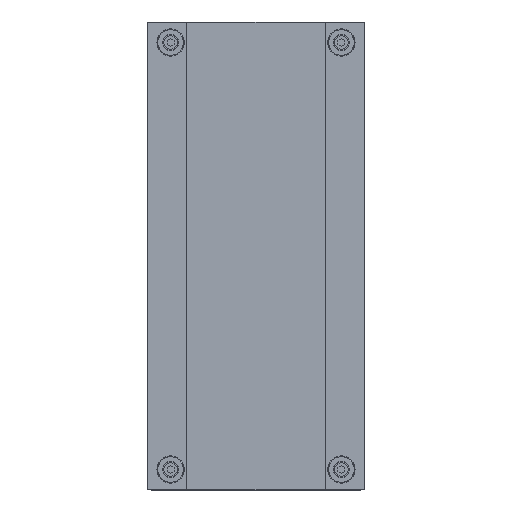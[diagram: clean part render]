
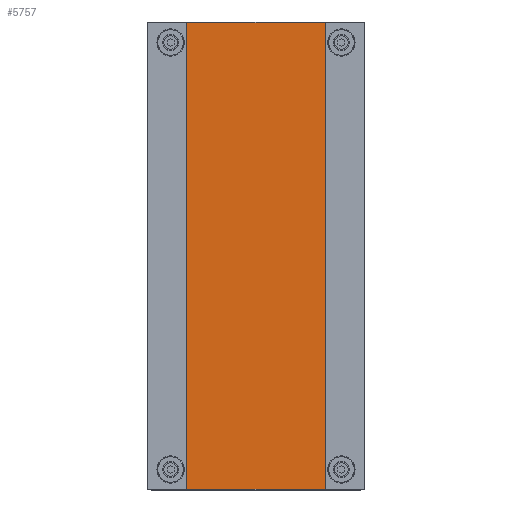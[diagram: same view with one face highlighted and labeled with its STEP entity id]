
A CAD part, front view. The second image highlights one B-rep face of the part: STEP entity #5757.
In plain terms, the highlighted planar face has unit normal (0, -1, 0).
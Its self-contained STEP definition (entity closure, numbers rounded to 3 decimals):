
#2067 = CARTESIAN_POINT ( 'NONE',  ( 84.5, -20., 273. ) ) ;
#2166 = LINE ( 'NONE', #2167, #2168 ) ;
#2167 = CARTESIAN_POINT ( 'NONE',  ( 84.5, -20., -273. ) ) ;
#2168 = VECTOR ( 'NONE', #2169, 1000. ) ;
#2169 = DIRECTION ( 'NONE',  ( 1., 0., 0. ) ) ;
#3249 = LINE ( 'NONE', #3250, #3251 ) ;
#3250 = CARTESIAN_POINT ( 'NONE',  ( 84.5, -20., 273. ) ) ;
#3251 = VECTOR ( 'NONE', #3252, 1000. ) ;
#3252 = DIRECTION ( 'NONE',  ( 1., 0., 0. ) ) ;
#3347 = CARTESIAN_POINT ( 'NONE',  ( -84.5, -20., -273. ) ) ;
#5298 = EDGE_CURVE ( 'NONE', #9560, #5362, #6494, .T. ) ;
#5362 = VERTEX_POINT ( 'NONE', #6531 ) ;
#5757 = ADVANCED_FACE ( 'NONE', ( #6725 ), #6736, .F. ) ;
#6494 = LINE ( 'NONE', #6495, #6496 ) ;
#6495 = CARTESIAN_POINT ( 'NONE',  ( 84.5, -20., 273. ) ) ;
#6496 = VECTOR ( 'NONE', #6497, 1000. ) ;
#6497 = DIRECTION ( 'NONE',  ( 0., 0., -1. ) ) ;
#6531 = CARTESIAN_POINT ( 'NONE',  ( 84.5, -20., -273. ) ) ;
#6725 = FACE_OUTER_BOUND ( 'NONE', #9079, .T. ) ;
#6736 = PLANE ( 'NONE',  #6737 ) ;
#6737 = AXIS2_PLACEMENT_3D ( 'NONE', #6738, #6739, #6740 ) ;
#6738 = CARTESIAN_POINT ( 'NONE',  ( 84.5, -20., 273. ) ) ;
#6739 = DIRECTION ( 'NONE',  ( 0., 1., 0. ) ) ;
#6740 = DIRECTION ( 'NONE',  ( -1., 0., 0. ) ) ;
#6776 = EDGE_CURVE ( 'NONE', #7001, #10035, #7435, .T. ) ;
#7001 = VERTEX_POINT ( 'NONE', #7587 ) ;
#7435 = LINE ( 'NONE', #7436, #7437 ) ;
#7436 = CARTESIAN_POINT ( 'NONE',  ( -84.5, -20., 273. ) ) ;
#7437 = VECTOR ( 'NONE', #7438, 1000. ) ;
#7438 = DIRECTION ( 'NONE',  ( 0., 0., -1. ) ) ;
#7587 = CARTESIAN_POINT ( 'NONE',  ( -84.5, -20., 273. ) ) ;
#9079 = EDGE_LOOP ( 'NONE', ( #9488, #9775, #9920, #10143 ) ) ;
#9488 = ORIENTED_EDGE ( 'NONE', *, *, #9603, .T. ) ;
#9560 = VERTEX_POINT ( 'NONE', #2067 ) ;
#9603 = EDGE_CURVE ( 'NONE', #10035, #5362, #2166, .T. ) ;
#9775 = ORIENTED_EDGE ( 'NONE', *, *, #5298, .F. ) ;
#9920 = ORIENTED_EDGE ( 'NONE', *, *, #10003, .F. ) ;
#10003 = EDGE_CURVE ( 'NONE', #7001, #9560, #3249, .T. ) ;
#10035 = VERTEX_POINT ( 'NONE', #3347 ) ;
#10143 = ORIENTED_EDGE ( 'NONE', *, *, #6776, .T. ) ;
